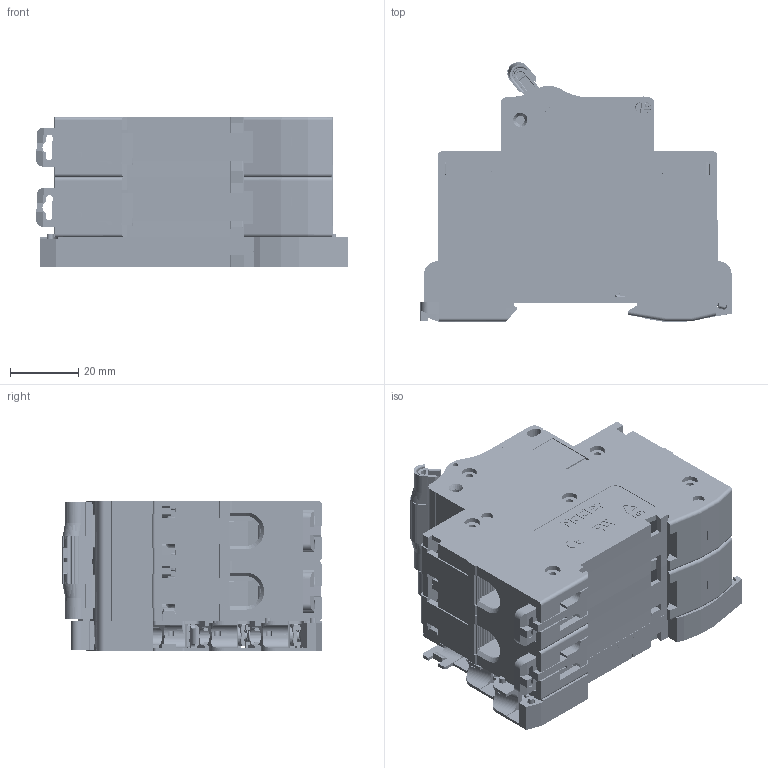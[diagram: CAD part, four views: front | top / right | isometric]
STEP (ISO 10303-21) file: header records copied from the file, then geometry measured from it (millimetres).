
FILE_DESCRIPTION (( 'STEP AP203' ), '1' );
FILE_NAME ('NDB2(Z)-63 2P+FF2.STEP', '2021-07-08T01:12:48', ( '' ), ( '' ), 'SwSTEP 2.0', 'SolidWorks 2018', '' );
FILE_SCHEMA (( 'CONFIG_CONTROL_DESIGN' ));
Length unit declared in the file: millimetre
Products named in the file (55): 5LD.850.120.STEP.STEP; 8LD.024.137.STEP.STEP; 8LD.907.115.STEP.STEP; 5LD.550.1187.STEP.STEP; 8LD.253.129.STEP.STEP; 8LD.615.119.STEP.STEP; 8LD.750.152.STEP.STEP; 8LD.907.127.STEP.STEP; 8LD.206.173.STEP.STEP; 8LD.282.164.1~17.STEP.STEP; 8LD.615.120.STEP.STEP; 8LD.585.142.STEP.STEP; 5LD.520.139.12.STEP.STEP; 8LD.270.115.STEP.STEP; 8LD.143.115.STEP.STEP; 8LD.503.105.STEP.STEP; 8LD.612.138.STEP.STEP; 8LD.234.103.STEP.STEP; 8LD.516.135.STEP.STEP; 8LD.522.117.12.STEP.STEP; 8LD.239.1018.STEP.STEP; 8LD.516.163.STEP.STEP; 8LD.550.1163.STEP.STEP; 8LD.288.143.STEP.STEP; 5LD.574.103.STEP.STEP; 8LD.315.141.STEP.STEP; 2LD.250.104.STEP.STEP; 8LD.253.1228.STEP; 8LD.156.146.STEP.STEP; 5LD.421.104.1~13.STEP.STEP; 5LD.550.165.STEP.STEP; NDB2(Z)-63 2P+FF2; 5LD.516.103.STEP.STEP; FF2 FS2耀倰芞; 8LD.235.112.STEP.STEP; 8LD.516.164.STEP.STEP; 8LD.885.106.STEP.STEP; 8LD.421.100.STEP.STEP; 8LD.742.182.STEP.STEP; 8LD.233.125.STEP.STEP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
Assembly tree (73 placements, depth 7):
  NDB2(Z)-63 2P+FF2
    NDB2-63 2P.STEP
      2LD.250.104.STEP.STEP  x2
        5LD.615.128.STEP.STEP
          5LD.520.139.12.STEP.STEP
            5LD.550.1187.STEP.STEP
              8LD.550.1182.STEP.STEP
              8LD.551.137.STEP.STEP
            8LD.612.138.STEP.STEP
            8LD.732.108.STEP.STEP
            8LD.615.119.STEP.STEP
            8LD.522.117.12.STEP.STEP
            8LD.516.164.STEP.STEP
          8LD.235.112.STEP.STEP
          8LD.615.120.STEP.STEP
          8LD.282.164.1~17.STEP.STEP
        5LD.740.106.STEP.STEP
          8LD.742.182.STEP.STEP  x12
          8LD.750.152.STEP.STEP  x4
        5LD.850.120.STEP.STEP
          8LD.948.100.STEP.STEP
          8LD.907.127.STEP.STEP
        5LD.574.103.STEP.STEP
          8LD.516.135.STEP.STEP
          8LD.907.115.STEP.STEP
        5LD.550.165.STEP.STEP
          5LD.421.104.1~13.STEP.STEP
            5LD.516.103.STEP.STEP
              8LD.516.163.STEP.STEP
              8LD.585.142.STEP.STEP
            8LD.595.106.STEP.STEP
            8LD.421.100.STEP.STEP
            8LD.503.105.STEP.STEP
            8LD.550.1163.STEP.STEP
            8LD.239.1018.STEP.STEP
          8LD.039.100.STEP.STEP
          8LD.206.173.STEP.STEP
          8LD.288.142.STEP.STEP
          8LD.270.115.STEP.STEP
          8LD.885.106.STEP.STEP
          8LD.282.141.STEP.STEP
        8LD.024.137.STEP.STEP
        8LD.315.140.STEP.STEP
        8LD.253.129.STEP.STEP
        8LD.321.101.STEP.STEP
        8LD.233.125.STEP.STEP
        8LD.257.111.STEP.STEP
        8LD.234.103.STEP.STEP
        8LD.742.206.STEP.STEP
        8LD.156.146.STEP.STEP
        8LD.143.115.STEP.STEP
        8LD.288.143.STEP.STEP
        8LD.315.141.STEP.STEP
      8LD.253.1228.STEP
    FF2 FS2耀倰芞
Bounding box: 91.04 x 76.03 x 43.9 mm (x, y, z)
Volume: 103836.4 mm3; surface area: 178738.2 mm2
Topology: 196 solids, 198 shells, 15725 faces, 43488 edges, 28460 vertices
Faces by surface type: plane 9633, cylinder 4281, cone 913, bspline 708, torus 156, sphere 34
Entity records: 346743 total; most frequent: CARTESIAN_POINT 122546, ORIENTED_EDGE 48130, DIRECTION 41900, EDGE_CURVE 24065, VERTEX_POINT 15710, VECTOR 15490, LINE 15490, AXIS2_PLACEMENT_3D 13205
